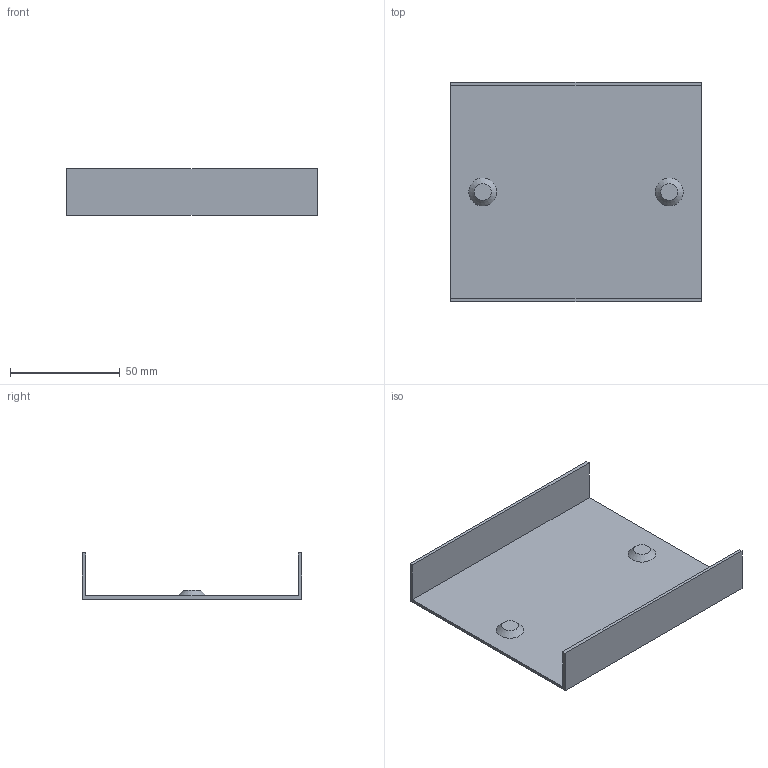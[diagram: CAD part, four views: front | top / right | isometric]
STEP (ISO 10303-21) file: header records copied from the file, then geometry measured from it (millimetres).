
FILE_DESCRIPTION( ( 'STEP AP214' ), '1' );
FILE_NAME( 'p:/temp/worker_243/temp/exporttempdir_464_198_e9GYI/format_0/PA1026(0).stp', '2021-03-16T11:04:02', ( 'License CC BY-ND 4.0' ), ( 'CADENAS' ), ' ', 'PARTsolutions', ' ' );
FILE_SCHEMA( ( 'AUTOMOTIVE_DESIGN { 1 0 10303 214 1 1 1 1 }' ) );
Length unit declared in the file: millimetre
Products named in the file (2): PA1026(0); _PA1026(0)_P1
Assembly tree (1 placements, depth 2):
  PA1026(0)
    _PA1026(0)_P1
Bounding box: 114 x 100 x 21 mm (x, y, z)
Volume: 24185.8 mm3; surface area: 32517.4 mm2
Topology: 1 solids, 1 shells, 14 faces, 32 edges, 22 vertices
Faces by surface type: plane 12, cone 2
Entity records: 518 total; most frequent: CARTESIAN_POINT 64, DIRECTION 64, ORIENTED_EDGE 56, EDGE_CURVE 28, LINE 24, VECTOR 24, AXIS2_PLACEMENT_3D 20, VERTEX_POINT 20
